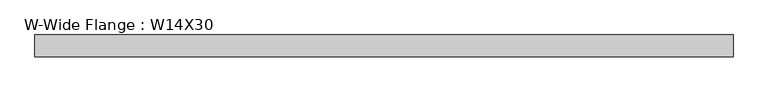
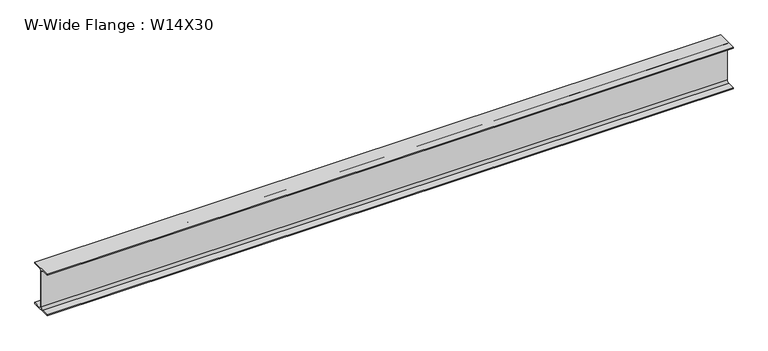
"""IFC4 building model written with IfcOpenShell, lengths in millimetres: beam geometry, W-Wide Flange : W14X30."""

from ifc_helpers import new_model, si_unit, point, frame, frame_2d, origin, place, context, project, spatial, polyline, circle_curve, trimmed, segment, composite_curve, outline, extrude, source, transform, mapped, element, save


def w_wide_flange_w14x30_b412955c(model_context):
    return source(origin(), model_context, "Body", "SweptSolid", [
        extrude(outline(composite_curve([segment(polyline([(85.471, -165.481), (85.471, -175.26), (-85.471, -175.26), (-85.471, -165.481), (-22.225, -165.481)]), True, "CONTINUOUS"), segment(trimmed(circle_curve(frame_2d((-22.225, -146.685)), 18.796), [point((-22.225, -165.481))], [point((-3.429, -146.685))], True, "CARTESIAN"), True, "CONTINUOUS"), segment(polyline([(-3.429, -146.685), (-3.429, 146.685)]), True, "CONTINUOUS"), segment(trimmed(circle_curve(frame_2d((-22.225, 146.685)), 18.796), [point((-3.429, 146.685))], [point((-22.225, 165.481))], True, "CARTESIAN"), True, "CONTINUOUS"), segment(polyline([(-22.225, 165.481), (-85.471, 165.481), (-85.471, 175.26), (85.471, 175.26), (85.471, 165.481), (22.225, 165.481)]), True, "CONTINUOUS"), segment(trimmed(circle_curve(frame_2d((22.225, 146.685)), 18.796), [point((22.225, 165.481))], [point((3.429, 146.685))], True, "CARTESIAN"), True, "CONTINUOUS"), segment(polyline([(3.429, 146.685), (3.429, -146.685)]), True, "CONTINUOUS"), segment(trimmed(circle_curve(frame_2d((22.225, -146.685)), 18.796), [point((3.429, -146.685))], [point((22.225, -165.481))], True, "CARTESIAN"), True, "CONTINUOUS"), segment(polyline([(22.225, -165.481), (85.471, -165.481)]), True, "CONTINUOUS")], self_intersect=False)), frame((-2730.5, 0.0, 0.0), z_axis=(1.0, 0.0, 0.0), x_axis=(0.0, 1.0, 0.0)), (0.0, 0.0, 1.0), 5461.0),
    ])


if __name__ == "__main__":
    model = new_model("IFC4")
    model_context = context("Model", 3, world=origin())
    ifc_project = project(units=[si_unit("LENGTHUNIT", "METRE", prefix="MILLI")], contexts=[model_context])
    site = spatial("IfcSite", under=ifc_project)
    building = spatial("IfcBuilding", under=site)
    placement = place(None, origin())
    w_wide_flange_w14x30_shape = w_wide_flange_w14x30_b412955c(model_context)
    element("IfcBeam", 1, ObjectType="W-Wide Flange : W14X30", at=placement, inside=building, context=model_context, shape_type="MappedRepresentation", body=[
        mapped(w_wide_flange_w14x30_shape, transform((0.0, 0.0, 0.0), x_axis=(1.0, 0.0, 0.0), y_axis=(0.0, 1.0, 0.0), z_axis=(0.0, 0.0, 1.0))),
    ])
    save(model, "model.ifc")
